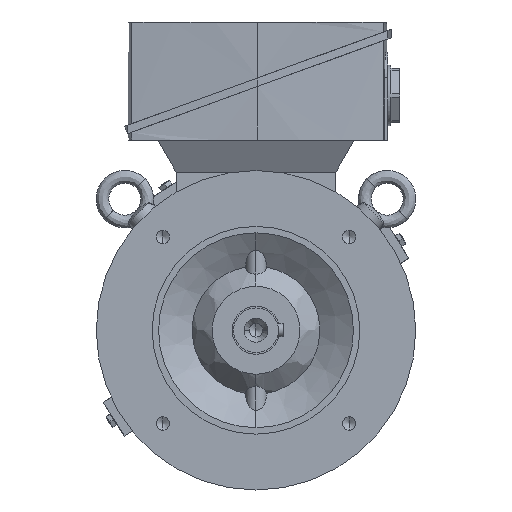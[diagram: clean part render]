
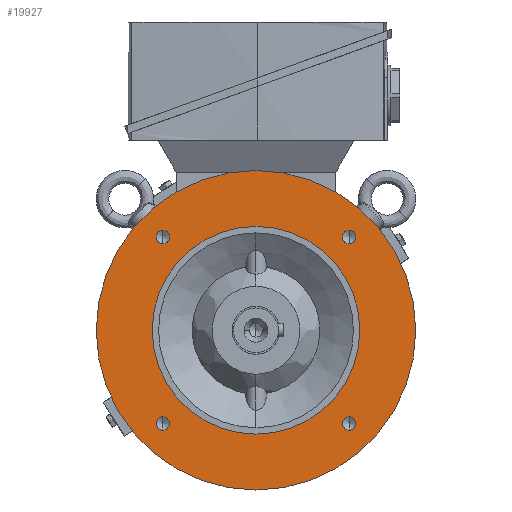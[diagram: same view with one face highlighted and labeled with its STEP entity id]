
A CAD part, left-side view. The second image highlights one B-rep face of the part: STEP entity #19927.
In plain terms, the highlighted planar face has unit normal (-1, 0, 0).
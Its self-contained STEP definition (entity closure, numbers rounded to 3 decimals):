
#89 = EDGE_CURVE ( 'NONE', #2912, #26294, #37905, .T. ) ;
#1163 = EDGE_LOOP ( 'NONE', ( #19818, #3245 ) ) ;
#2535 = CIRCLE ( 'NONE', #34173, 65. ) ;
#2912 = VERTEX_POINT ( 'NONE', #26734 ) ;
#3068 = EDGE_LOOP ( 'NONE', ( #37815, #35312 ) ) ;
#3158 = CARTESIAN_POINT ( 'NONE',  ( -40.5, 0., 65. ) ) ;
#3207 = AXIS2_PLACEMENT_3D ( 'NONE', #33410, #33334, #33285 ) ;
#3245 = ORIENTED_EDGE ( 'NONE', *, *, #6993, .F. ) ;
#3863 = AXIS2_PLACEMENT_3D ( 'NONE', #25848, #25975, #26106 ) ;
#4781 = CARTESIAN_POINT ( 'NONE',  ( -40.5, 0., -65. ) ) ;
#4796 = VERTEX_POINT ( 'NONE', #34144 ) ;
#4806 = ORIENTED_EDGE ( 'NONE', *, *, #33933, .T. ) ;
#5125 = EDGE_LOOP ( 'NONE', ( #24396, #9258 ) ) ;
#5575 = ORIENTED_EDGE ( 'NONE', *, *, #7028, .T. ) ;
#5674 = DIRECTION ( 'NONE',  ( 0., 0., -1. ) ) ;
#5744 = DIRECTION ( 'NONE',  ( 1., 0., 0. ) ) ;
#5834 = CARTESIAN_POINT ( 'NONE',  ( -40.5, 58.336, 58.336 ) ) ;
#6466 = CARTESIAN_POINT ( 'NONE',  ( -40.5, 58.336, 54.146 ) ) ;
#6767 = CARTESIAN_POINT ( 'NONE',  ( -40.5, 0., 0. ) ) ;
#6815 = DIRECTION ( 'NONE',  ( 1., 0., 0. ) ) ;
#6894 = DIRECTION ( 'NONE',  ( 0., 0., 1. ) ) ;
#6993 = EDGE_CURVE ( 'NONE', #21700, #21228, #29869, .T. ) ;
#7015 = DIRECTION ( 'NONE',  ( 0., 0., -1. ) ) ;
#7025 = DIRECTION ( 'NONE',  ( 1., 0., 0. ) ) ;
#7028 = EDGE_CURVE ( 'NONE', #15711, #23668, #29549, .T. ) ;
#7059 = CARTESIAN_POINT ( 'NONE',  ( -40.5, -58.336, -58.336 ) ) ;
#7437 = DIRECTION ( 'NONE',  ( 0., 0., -1. ) ) ;
#7481 = DIRECTION ( 'NONE',  ( 1., 0., 0. ) ) ;
#7522 = CARTESIAN_POINT ( 'NONE',  ( -40.5, 58.336, -58.336 ) ) ;
#7956 = EDGE_LOOP ( 'NONE', ( #4806, #10061 ) ) ;
#9258 = ORIENTED_EDGE ( 'NONE', *, *, #29539, .T. ) ;
#10061 = ORIENTED_EDGE ( 'NONE', *, *, #22624, .T. ) ;
#10657 = CIRCLE ( 'NONE', #12062, 4.19 ) ;
#10701 = CIRCLE ( 'NONE', #29740, 4.19 ) ;
#10781 = AXIS2_PLACEMENT_3D ( 'NONE', #5834, #5744, #5674 ) ;
#10881 = EDGE_LOOP ( 'NONE', ( #5575, #12673 ) ) ;
#11066 = CARTESIAN_POINT ( 'NONE',  ( -40.5, 0., -100. ) ) ;
#12062 = AXIS2_PLACEMENT_3D ( 'NONE', #7059, #7025, #7015 ) ;
#12633 = AXIS2_PLACEMENT_3D ( 'NONE', #20368, #20341, #20326 ) ;
#12673 = ORIENTED_EDGE ( 'NONE', *, *, #18983, .T. ) ;
#12848 = EDGE_CURVE ( 'NONE', #26294, #2912, #10701, .T. ) ;
#12884 = EDGE_CURVE ( 'NONE', #4796, #13806, #10657, .T. ) ;
#13806 = VERTEX_POINT ( 'NONE', #17822 ) ;
#14365 = DIRECTION ( 'NONE',  ( 0., 0., -1. ) ) ;
#14435 = DIRECTION ( 'NONE',  ( 1., 0., 0. ) ) ;
#14532 = CARTESIAN_POINT ( 'NONE',  ( -40.5, -58.336, 58.336 ) ) ;
#15711 = VERTEX_POINT ( 'NONE', #3158 ) ;
#16572 = CIRCLE ( 'NONE', #33200, 100. ) ;
#17446 = EDGE_LOOP ( 'NONE', ( #24888, #21033 ) ) ;
#17669 = VERTEX_POINT ( 'NONE', #38117 ) ;
#17822 = CARTESIAN_POINT ( 'NONE',  ( -40.5, -58.336, -54.146 ) ) ;
#17912 = EDGE_CURVE ( 'NONE', #13806, #4796, #35566, .T. ) ;
#18983 = EDGE_CURVE ( 'NONE', #23668, #15711, #2535, .T. ) ;
#19294 = CIRCLE ( 'NONE', #3863, 4.19 ) ;
#19490 = CARTESIAN_POINT ( 'NONE',  ( -40.5, -58.336, 62.526 ) ) ;
#19818 = ORIENTED_EDGE ( 'NONE', *, *, #33512, .F. ) ;
#19927 = ADVANCED_FACE ( 'NONE', ( #33502, #33844, #33727, #33964, #33421, #33385 ), #24100, .T. ) ;
#19947 = DIRECTION ( 'NONE',  ( 0., 0., 1. ) ) ;
#19959 = DIRECTION ( 'NONE',  ( 1., 0., 0. ) ) ;
#19985 = CARTESIAN_POINT ( 'NONE',  ( -40.5, 0., 0. ) ) ;
#20326 = DIRECTION ( 'NONE',  ( 0., 0., 1. ) ) ;
#20341 = DIRECTION ( 'NONE',  ( 1., 0., 0. ) ) ;
#20368 = CARTESIAN_POINT ( 'NONE',  ( -40.5, 0., 0. ) ) ;
#21033 = ORIENTED_EDGE ( 'NONE', *, *, #89, .T. ) ;
#21228 = VERTEX_POINT ( 'NONE', #24311 ) ;
#21386 = VERTEX_POINT ( 'NONE', #19490 ) ;
#21662 = CIRCLE ( 'NONE', #10781, 4.19 ) ;
#21700 = VERTEX_POINT ( 'NONE', #11066 ) ;
#22624 = EDGE_CURVE ( 'NONE', #21386, #32764, #27782, .T. ) ;
#22918 = DIRECTION ( 'NONE',  ( 0., 0., 1. ) ) ;
#22921 = CARTESIAN_POINT ( 'NONE',  ( -40.5, -58.336, 54.146 ) ) ;
#22970 = DIRECTION ( 'NONE',  ( -1., 0., 0. ) ) ;
#23055 = CARTESIAN_POINT ( 'NONE',  ( -40.5, 0., 82.5 ) ) ;
#23668 = VERTEX_POINT ( 'NONE', #4781 ) ;
#24100 = PLANE ( 'NONE',  #37539 ) ;
#24311 = CARTESIAN_POINT ( 'NONE',  ( -40.5, 0., 100. ) ) ;
#24396 = ORIENTED_EDGE ( 'NONE', *, *, #32183, .T. ) ;
#24722 = CARTESIAN_POINT ( 'NONE',  ( -40.5, 58.336, -58.336 ) ) ;
#24766 = DIRECTION ( 'NONE',  ( 1., 0., 0. ) ) ;
#24774 = DIRECTION ( 'NONE',  ( 0., 0., -1. ) ) ;
#24888 = ORIENTED_EDGE ( 'NONE', *, *, #12848, .T. ) ;
#25848 = CARTESIAN_POINT ( 'NONE',  ( -40.5, 58.336, 58.336 ) ) ;
#25975 = DIRECTION ( 'NONE',  ( 1., 0., 0. ) ) ;
#26106 = DIRECTION ( 'NONE',  ( 0., 0., -1. ) ) ;
#26294 = VERTEX_POINT ( 'NONE', #29509 ) ;
#26734 = CARTESIAN_POINT ( 'NONE',  ( -40.5, 58.336, -54.146 ) ) ;
#27782 = CIRCLE ( 'NONE', #30902, 4.19 ) ;
#27800 = AXIS2_PLACEMENT_3D ( 'NONE', #14532, #14435, #14365 ) ;
#29509 = CARTESIAN_POINT ( 'NONE',  ( -40.5, 58.336, -62.526 ) ) ;
#29539 = EDGE_CURVE ( 'NONE', #17669, #35445, #21662, .T. ) ;
#29549 = CIRCLE ( 'NONE', #36350, 65. ) ;
#29740 = AXIS2_PLACEMENT_3D ( 'NONE', #7522, #7481, #7437 ) ;
#29869 = CIRCLE ( 'NONE', #12633, 100. ) ;
#30748 = CIRCLE ( 'NONE', #27800, 4.19 ) ;
#30902 = AXIS2_PLACEMENT_3D ( 'NONE', #31290, #32614, #33065 ) ;
#31290 = CARTESIAN_POINT ( 'NONE',  ( -40.5, -58.336, 58.336 ) ) ;
#32183 = EDGE_CURVE ( 'NONE', #35445, #17669, #19294, .T. ) ;
#32445 = AXIS2_PLACEMENT_3D ( 'NONE', #24722, #24766, #24774 ) ;
#32614 = DIRECTION ( 'NONE',  ( 1., 0., 0. ) ) ;
#32764 = VERTEX_POINT ( 'NONE', #22921 ) ;
#33065 = DIRECTION ( 'NONE',  ( 0., 0., -1. ) ) ;
#33200 = AXIS2_PLACEMENT_3D ( 'NONE', #36712, #36703, #36578 ) ;
#33285 = DIRECTION ( 'NONE',  ( 0., 0., -1. ) ) ;
#33334 = DIRECTION ( 'NONE',  ( 1., 0., 0. ) ) ;
#33385 = FACE_BOUND ( 'NONE', #7956, .T. ) ;
#33410 = CARTESIAN_POINT ( 'NONE',  ( -40.5, -58.336, -58.336 ) ) ;
#33421 = FACE_BOUND ( 'NONE', #3068, .T. ) ;
#33502 = FACE_BOUND ( 'NONE', #10881, .T. ) ;
#33512 = EDGE_CURVE ( 'NONE', #21228, #21700, #16572, .T. ) ;
#33727 = FACE_BOUND ( 'NONE', #5125, .T. ) ;
#33844 = FACE_OUTER_BOUND ( 'NONE', #1163, .T. ) ;
#33933 = EDGE_CURVE ( 'NONE', #32764, #21386, #30748, .T. ) ;
#33964 = FACE_BOUND ( 'NONE', #17446, .T. ) ;
#34144 = CARTESIAN_POINT ( 'NONE',  ( -40.5, -58.336, -62.526 ) ) ;
#34173 = AXIS2_PLACEMENT_3D ( 'NONE', #6767, #6815, #6894 ) ;
#35312 = ORIENTED_EDGE ( 'NONE', *, *, #17912, .T. ) ;
#35445 = VERTEX_POINT ( 'NONE', #6466 ) ;
#35566 = CIRCLE ( 'NONE', #3207, 4.19 ) ;
#36350 = AXIS2_PLACEMENT_3D ( 'NONE', #19985, #19959, #19947 ) ;
#36578 = DIRECTION ( 'NONE',  ( 0., 0., 1. ) ) ;
#36703 = DIRECTION ( 'NONE',  ( 1., 0., 0. ) ) ;
#36712 = CARTESIAN_POINT ( 'NONE',  ( -40.5, 0., 0. ) ) ;
#37539 = AXIS2_PLACEMENT_3D ( 'NONE', #23055, #22970, #22918 ) ;
#37815 = ORIENTED_EDGE ( 'NONE', *, *, #12884, .T. ) ;
#37905 = CIRCLE ( 'NONE', #32445, 4.19 ) ;
#38117 = CARTESIAN_POINT ( 'NONE',  ( -40.5, 58.336, 62.526 ) ) ;
